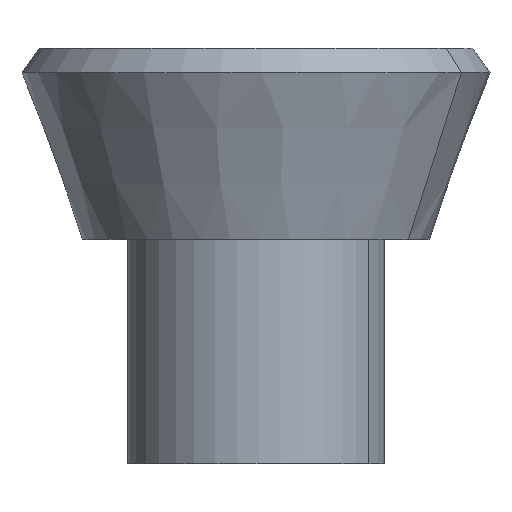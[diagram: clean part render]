
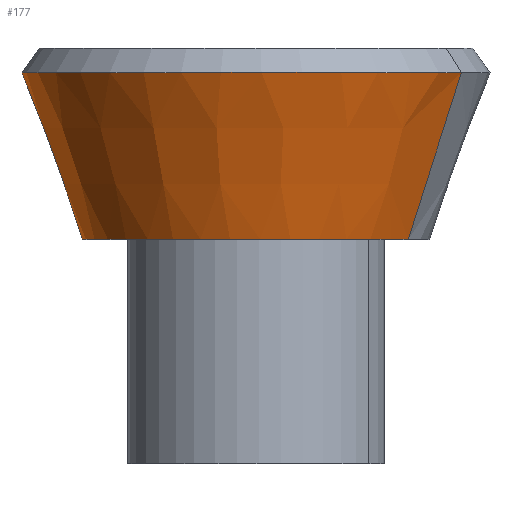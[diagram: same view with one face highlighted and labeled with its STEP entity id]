
A CAD part, top view. The second image highlights one B-rep face of the part: STEP entity #177.
In plain terms, the highlighted conical face has half-angle 20 degrees and reference radius 116 mm.
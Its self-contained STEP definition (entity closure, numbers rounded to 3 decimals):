
#114=CARTESIAN_POINT('Axis2P3D Location',(0.,0.,0.)) ;
#118=CARTESIAN_POINT('Vertex',(101.8,0.,55.613)) ;
#120=CARTESIAN_POINT('Vertex',(-101.8,0.,-55.613)) ;
#147=CARTESIAN_POINT('Axis2P3D Location',(0.,0.,0.)) ;
#152=CARTESIAN_POINT('Line Origine',(119.593,55.708,65.334)) ;
#156=CARTESIAN_POINT('Vertex',(137.387,111.415,75.055)) ;
#159=CARTESIAN_POINT('Axis2P3D Location',(0.,111.415,0.)) ;
#163=CARTESIAN_POINT('Vertex',(-137.387,111.415,-75.055)) ;
#166=CARTESIAN_POINT('Line Origine',(-119.593,55.708,-65.334)) ;
#115=DIRECTION('Axis2P3D Direction',(0.,-1.,0.)) ;
#148=DIRECTION('Axis2P3D Direction',(-0.,1.,-0.)) ;
#149=DIRECTION('Axis2P3D XDirection',(0.878,0.,0.479)) ;
#153=DIRECTION('Vector Direction',(0.3,0.94,0.164)) ;
#160=DIRECTION('Axis2P3D Direction',(0.,1.,-0.)) ;
#167=DIRECTION('Vector Direction',(-0.3,0.94,-0.164)) ;
#116=AXIS2_PLACEMENT_3D('Circle Axis2P3D',#114,#115,$) ;
#150=AXIS2_PLACEMENT_3D('Cone Axis2P3D',#147,#148,#149) ;
#161=AXIS2_PLACEMENT_3D('Circle Axis2P3D',#159,#160,$) ;
#172=ORIENTED_EDGE('',*,*,#122,.F.) ;
#173=ORIENTED_EDGE('',*,*,#158,.T.) ;
#174=ORIENTED_EDGE('',*,*,#165,.T.) ;
#175=ORIENTED_EDGE('',*,*,#170,.F.) ;
#154=VECTOR('Line Direction',#153,1.) ;
#168=VECTOR('Line Direction',#167,1.) ;
#177=ADVANCED_FACE('PartBody',(#176),#151,.T.) ;
#117=CIRCLE('generated circle',#116,116.) ;
#162=CIRCLE('generated circle',#161,156.552) ;
#151=CONICAL_SURFACE('Cone',#150,116.,0.349) ;
#122=EDGE_CURVE('',#119,#121,#117,.T.) ;
#158=EDGE_CURVE('',#119,#157,#155,.T.) ;
#165=EDGE_CURVE('',#157,#164,#162,.F.) ;
#170=EDGE_CURVE('',#121,#164,#169,.T.) ;
#171=EDGE_LOOP('',(#172,#173,#174,#175)) ;
#176=FACE_OUTER_BOUND('',#171,.T.) ;
#155=LINE('Line',#152,#154) ;
#169=LINE('Line',#166,#168) ;
#119=VERTEX_POINT('',#118) ;
#121=VERTEX_POINT('',#120) ;
#157=VERTEX_POINT('',#156) ;
#164=VERTEX_POINT('',#163) ;
